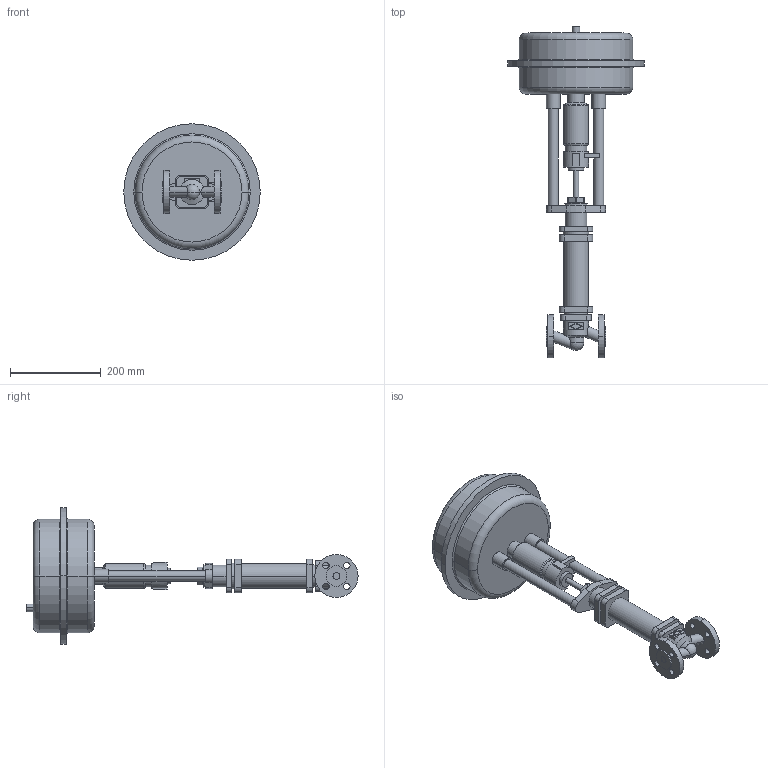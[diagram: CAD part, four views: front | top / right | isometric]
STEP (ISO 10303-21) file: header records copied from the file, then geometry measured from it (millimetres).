
FILE_DESCRIPTION(('OneSpaceDesigner STEP Export'),'2;1');
FILE_NAME('c000002074.stp','2005-12-12T11:14:37',(''),(''),'OneSpace Designer STEP processor for AP203 (Solid Model)','OneSpace Designer 13.20A 18-Aug-2005 (C) CoCreate Software GmbH','');
FILE_SCHEMA(('CONFIG_CONTROL_DESIGN'));
Length unit declared in the file: millimetre
Products named in the file (1): 1
Bounding box: 300 x 730.1 x 300 mm (x, y, z)
Volume: 8439927.9 mm3; surface area: 441506.4 mm2
Topology: 1 solids, 1 shells, 215 faces, 529 edges, 345 vertices
Faces by surface type: cylinder 102, plane 89, torus 16, cone 6, sphere 2
Entity records: 5964 total; most frequent: CARTESIAN_POINT 1108, ORIENTED_EDGE 1054, DIRECTION 912, EDGE_CURVE 527, VERTEX_POINT 345, AXIS2_PLACEMENT_3D 326, EDGE_LOOP 266, VECTOR 260
